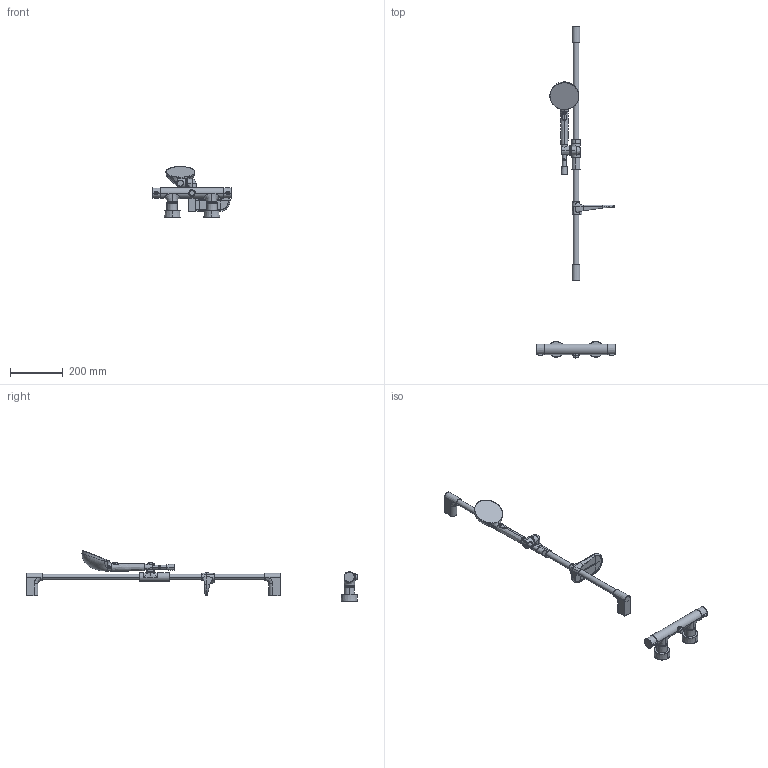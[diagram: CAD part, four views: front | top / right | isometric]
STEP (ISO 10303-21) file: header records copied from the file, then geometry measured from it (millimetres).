
FILE_DESCRIPTION (( 'STEP AP203' ), '1' );
FILE_NAME ('48130431(2024).STEP', '2024-04-10T08:32:09', ( '' ), ( '' ), 'SwSTEP 2.0', 'SolidWorks 2016', '' );
FILE_SCHEMA (( 'CONFIG_CONTROL_DESIGN' ));
Products named in the file (1): 48130431(2024)
Bounding box: 299.88 x 1261.29 x 193.47 mm (x, y, z)
Volume: 1954938.8 mm3; surface area: 294674.6 mm2
Topology: 21 solids, 21 shells, 541 faces, 1306 edges, 800 vertices
Faces by surface type: bspline 326, plane 72, cylinder 61, cone 45, sphere 22, torus 15
Entity records: 64328 total; most frequent: CARTESIAN_POINT 53980, ORIENTED_EDGE 2586, DIRECTION 1537, EDGE_CURVE 1293, VERTEX_POINT 800, AXIS2_PLACEMENT_3D 677, EDGE_LOOP 549, B_SPLINE_CURVE_WITH_KNOTS 542
